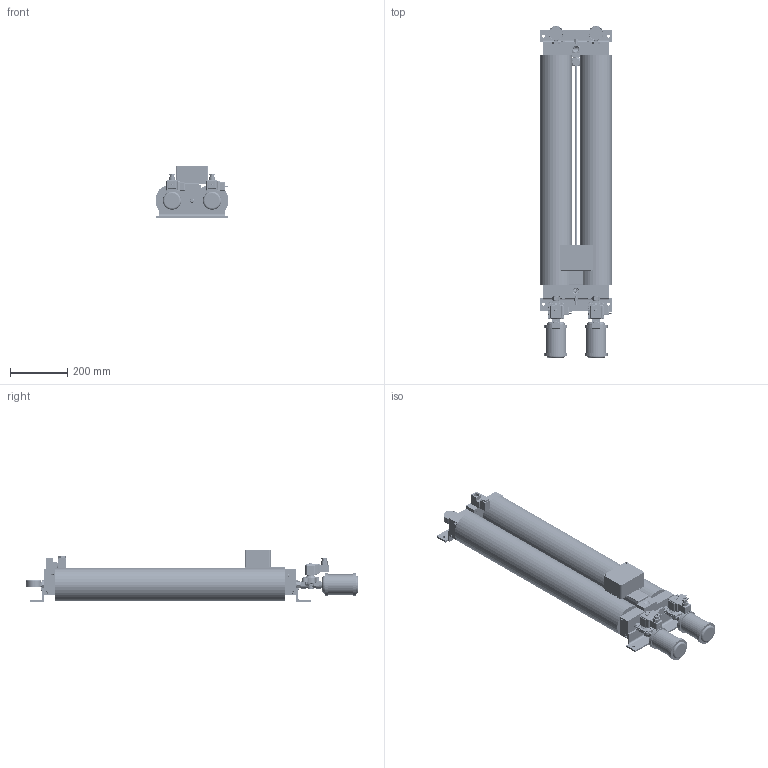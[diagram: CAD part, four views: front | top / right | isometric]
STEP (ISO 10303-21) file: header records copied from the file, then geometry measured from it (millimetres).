
FILE_DESCRIPTION (( 'STEP AP214' ), '1' );
FILE_NAME ('HR7-XX-XXXX.STEP', '2020-09-14T18:28:30', ( '' ), ( '' ), 'SwSTEP 2.0', 'SolidWorks 2017', '' );
FILE_SCHEMA (( 'AUTOMOTIVE_DESIGN' ));
Length unit declared in the file: inch
Products named in the file (1): HR7-XX-XXXX
Bounding box: 254 x 1158.48 x 180.06 mm (x, y, z)
Volume: 5891639.9 mm3; surface area: 2054489.2 mm2
Topology: 67 solids, 67 shells, 6988 faces, 17552 edges, 11003 vertices
Faces by surface type: cylinder 2634, plane 2366, cone 1553, bspline 237, torus 172, sphere 26
Entity records: 366736 total; most frequent: CARTESIAN_POINT 113231, ORIENTED_EDGE 34974, DIRECTION 32675, EDGE_CURVE 17487, AXIS2_PLACEMENT_3D 11903, VERTEX_POINT 11000, LINE 8869, VECTOR 8869
